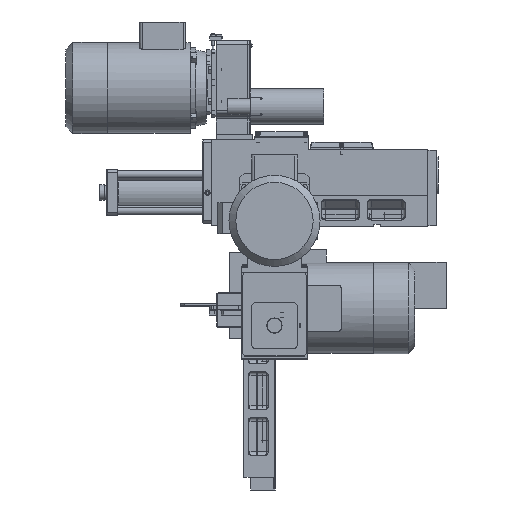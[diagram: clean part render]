
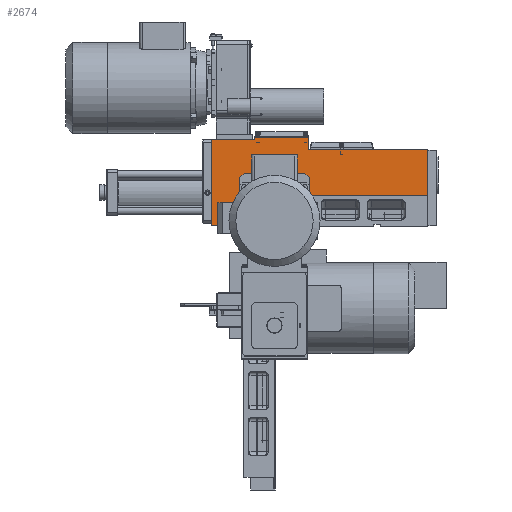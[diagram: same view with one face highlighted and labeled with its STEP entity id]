
A CAD part, front view. The second image highlights one B-rep face of the part: STEP entity #2674.
In plain terms, the highlighted planar face has unit normal (0, -1, 0).
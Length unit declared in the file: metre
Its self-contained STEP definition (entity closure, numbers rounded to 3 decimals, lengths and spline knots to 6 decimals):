
#2674 = ADVANCED_FACE( '', ( #4461 ), #4462, .T. );
#4461 = FACE_OUTER_BOUND( '', #8467, .T. );
#4462 = PLANE( '', #8468 );
#8467 = EDGE_LOOP( '', ( #13820, #13821, #13822, #13823, #13824, #13825, #13826, #13827, #13828, #13829 ) );
#8468 = AXIS2_PLACEMENT_3D( '', #13830, #13831, #13832 );
#13820 = ORIENTED_EDGE( '', *, *, #17372, .T. );
#13821 = ORIENTED_EDGE( '', *, *, #17373, .T. );
#13822 = ORIENTED_EDGE( '', *, *, #17374, .F. );
#13823 = ORIENTED_EDGE( '', *, *, #17375, .T. );
#13824 = ORIENTED_EDGE( '', *, *, #17376, .T. );
#13825 = ORIENTED_EDGE( '', *, *, #17377, .T. );
#13826 = ORIENTED_EDGE( '', *, *, #17378, .T. );
#13827 = ORIENTED_EDGE( '', *, *, #17379, .T. );
#13828 = ORIENTED_EDGE( '', *, *, #17369, .T. );
#13829 = ORIENTED_EDGE( '', *, *, #17380, .T. );
#13830 = CARTESIAN_POINT( '', ( 0.337, -0.003889, 0. ) );
#13831 = DIRECTION( '', ( 0., -1., 0. ) );
#13832 = DIRECTION( '', ( 1., 0., 0. ) );
#17369 = EDGE_CURVE( '', #20210, #20208, #20211, .T. );
#17372 = EDGE_CURVE( '', #20215, #20216, #20217, .T. );
#17373 = EDGE_CURVE( '', #20216, #20218, #20219, .T. );
#17374 = EDGE_CURVE( '', #20220, #20218, #20221, .T. );
#17375 = EDGE_CURVE( '', #20220, #20222, #20223, .T. );
#17376 = EDGE_CURVE( '', #20222, #20224, #20225, .T. );
#17377 = EDGE_CURVE( '', #20224, #20226, #20227, .T. );
#17378 = EDGE_CURVE( '', #20226, #20228, #20229, .T. );
#17379 = EDGE_CURVE( '', #20228, #20210, #20230, .T. );
#17380 = EDGE_CURVE( '', #20208, #20215, #20231, .T. );
#20208 = VERTEX_POINT( '', #25865 );
#20210 = VERTEX_POINT( '', #25868 );
#20211 = LINE( '', #25869, #25870 );
#20215 = VERTEX_POINT( '', #25876 );
#20216 = VERTEX_POINT( '', #25877 );
#20217 = LINE( '', #25878, #25879 );
#20218 = VERTEX_POINT( '', #25880 );
#20219 = LINE( '', #25881, #25882 );
#20220 = VERTEX_POINT( '', #25883 );
#20221 = LINE( '', #25884, #25885 );
#20222 = VERTEX_POINT( '', #25886 );
#20223 = LINE( '', #25887, #25888 );
#20224 = VERTEX_POINT( '', #25889 );
#20225 = LINE( '', #25890, #25891 );
#20226 = VERTEX_POINT( '', #25892 );
#20227 = LINE( '', #25893, #25894 );
#20228 = VERTEX_POINT( '', #25895 );
#20229 = LINE( '', #25896, #25897 );
#20230 = LINE( '', #25898, #25899 );
#20231 = LINE( '', #25900, #25901 );
#25865 = CARTESIAN_POINT( '', ( -0.003, -0.003889, 0.115 ) );
#25868 = CARTESIAN_POINT( '', ( 0.102, -0.003889, 0.115 ) );
#25869 = CARTESIAN_POINT( '', ( -0.005, -0.003889, 0.115 ) );
#25870 = VECTOR( '', #29465, 1. );
#25876 = CARTESIAN_POINT( '', ( -0.003, -0.003889, 0.11 ) );
#25877 = CARTESIAN_POINT( '', ( -0.088, -0.003889, 0.11 ) );
#25878 = CARTESIAN_POINT( '', ( 0.14575, -0.003889, 0.11 ) );
#25879 = VECTOR( '', #29468, 1. );
#25880 = CARTESIAN_POINT( '', ( -0.088, -0.003889, -0.059 ) );
#25881 = CARTESIAN_POINT( '', ( -0.088, -0.003889, -0.059 ) );
#25882 = VECTOR( '', #29469, 1. );
#25883 = CARTESIAN_POINT( '', ( -0.005, -0.003889, -0.059 ) );
#25884 = CARTESIAN_POINT( '', ( -0.005, -0.003889, -0.059 ) );
#25885 = VECTOR( '', #29470, 1. );
#25886 = CARTESIAN_POINT( '', ( -0.005, -0.003889, 0. ) );
#25887 = CARTESIAN_POINT( '', ( -0.005, -0.003889, -0.059 ) );
#25888 = VECTOR( '', #29471, 1. );
#25889 = CARTESIAN_POINT( '', ( 0.337, -0.003889, 0. ) );
#25890 = CARTESIAN_POINT( '', ( -0.005, -0.003889, 0. ) );
#25891 = VECTOR( '', #29472, 1. );
#25892 = CARTESIAN_POINT( '', ( 0.337, -0.003889, 0.09 ) );
#25893 = CARTESIAN_POINT( '', ( 0.337, -0.003889, 0. ) );
#25894 = VECTOR( '', #29473, 1. );
#25895 = CARTESIAN_POINT( '', ( 0.102, -0.003889, 0.09 ) );
#25896 = CARTESIAN_POINT( '', ( -0.005, -0.003889, 0.09 ) );
#25897 = VECTOR( '', #29474, 1. );
#25898 = CARTESIAN_POINT( '', ( 0.102, -0.003889, 0.09 ) );
#25899 = VECTOR( '', #29475, 1. );
#25900 = CARTESIAN_POINT( '', ( -0.003, -0.003889, 0.058735 ) );
#25901 = VECTOR( '', #29476, 1. );
#29465 = DIRECTION( '', ( -1., 0., 0. ) );
#29468 = DIRECTION( '', ( -1., 0., 0. ) );
#29469 = DIRECTION( '', ( 0., 0., -1. ) );
#29470 = DIRECTION( '', ( -1., 0., 0. ) );
#29471 = DIRECTION( '', ( 0., 0., 1. ) );
#29472 = DIRECTION( '', ( 1., 0., 0. ) );
#29473 = DIRECTION( '', ( 0., 0., 1. ) );
#29474 = DIRECTION( '', ( -1., 0., 0. ) );
#29475 = DIRECTION( '', ( 0., 0., 1. ) );
#29476 = DIRECTION( '', ( 0., 0., -1. ) );
